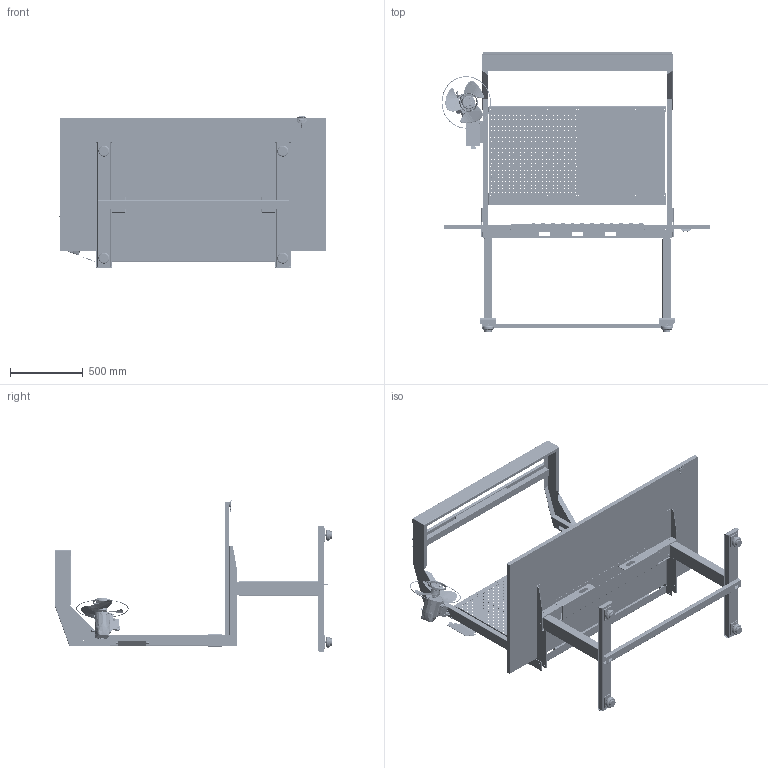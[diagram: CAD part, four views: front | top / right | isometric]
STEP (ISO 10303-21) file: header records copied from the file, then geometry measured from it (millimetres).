
FILE_DESCRIPTION (( 'STEP AP214' ), '1' );
FILE_NAME ('72INX36IN.STEP', '2018-10-08T13:18:32', ( '' ), ( '' ), 'SwSTEP 2.0', 'SolidWorks 2018', '' );
FILE_SCHEMA (( 'AUTOMOTIVE_DESIGN' ));
Length unit declared in the file: millimetre
Products named in the file (2): 72INX36IN
Bounding box: 1847.72 x 1924.07 x 1040.92 mm (x, y, z)
Surface area: 13062107.5 mm2 (no closed solid volume)
Topology: 0 solids, 105 shells, 6217 faces, 18490 edges, 12319 vertices
Faces by surface type: plane 3521, cylinder 2173, bspline 447, cone 76
Full cylindrical faces by diameter (mm): 3.6 x4, 4 x3, 4.2 x6, 4.6 x1, 5 x78, 5.8 x4, 6 x6, 6.35 x24, 6.4 x6, 6.5 x548, 6.647 x4, 6.8 x41, 7 x36, 7.937 x2, 7.938 x2, 8 x9, 8.5 x4, 9.347 x8, 9.525 x8, 10 x26, 11.35 x4, 12 x4, 14 x1, 17 x2, 20 x4, 30.636 x1, 49.7 x4, 63.994 x1, 66.587 x1, 76.2 x4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
Entity records: 333344 total; most frequent: CARTESIAN_POINT 105572, ORIENTED_EDGE 32202, DIRECTION 30740, EDGE_CURVE 16803, VERTEX_POINT 11590, VECTOR 10778, LINE 10778, AXIS2_PLACEMENT_3D 9981
